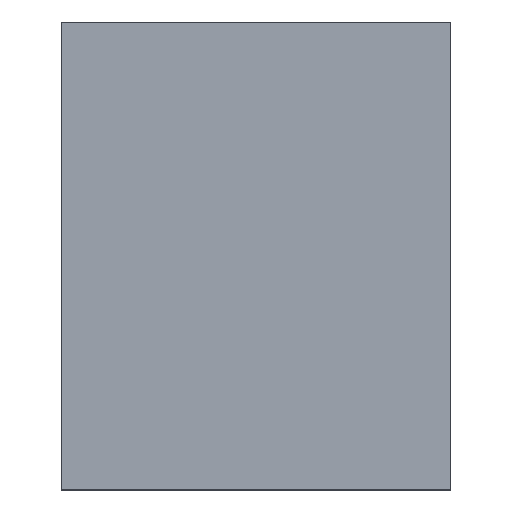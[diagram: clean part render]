
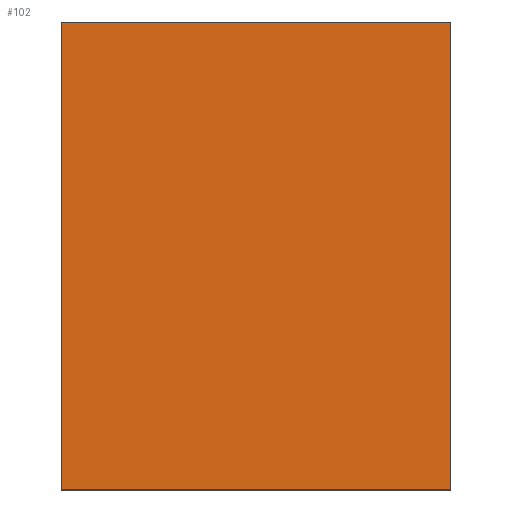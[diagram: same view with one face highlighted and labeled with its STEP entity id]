
A CAD part, top view. The second image highlights one B-rep face of the part: STEP entity #102.
In plain terms, the highlighted planar face has unit normal (0, 0, 1).
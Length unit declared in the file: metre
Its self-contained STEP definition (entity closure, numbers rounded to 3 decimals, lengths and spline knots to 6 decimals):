
#28=ORIENTED_EDGE('',*,*,#38,.F.);
#29=ORIENTED_EDGE('',*,*,#42,.T.);
#30=ORIENTED_EDGE('',*,*,#45,.T.);
#31=ORIENTED_EDGE('',*,*,#47,.F.);
#38=EDGE_CURVE('',#50,#51,#58,.T.);
#42=EDGE_CURVE('',#50,#53,#62,.T.);
#45=EDGE_CURVE('',#53,#55,#65,.T.);
#47=EDGE_CURVE('',#51,#55,#67,.T.);
#50=VERTEX_POINT('',#155);
#51=VERTEX_POINT('',#157);
#53=VERTEX_POINT('',#163);
#55=VERTEX_POINT('',#169);
#58=LINE('',#156,#70);
#62=LINE('',#164,#74);
#65=LINE('',#170,#77);
#67=LINE('',#173,#79);
#70=VECTOR('',#129,1.);
#74=VECTOR('',#135,1.);
#77=VECTOR('',#140,1.);
#79=VECTOR('',#144,1.);
#84=EDGE_LOOP('',(#28,#29,#30,#31));
#90=FACE_BOUND('',#84,.T.);
#96=PLANE('',#121);
#102=ADVANCED_FACE('',(#90),#96,.T.);
#121=AXIS2_PLACEMENT_3D('',#174,#145,#146);
#129=DIRECTION('',(-1.,0.,0.));
#135=DIRECTION('',(0.,1.,0.));
#140=DIRECTION('',(-1.,0.,0.));
#144=DIRECTION('',(0.,1.,0.));
#145=DIRECTION('',(0.,0.,1.));
#146=DIRECTION('',(1.,0.,0.));
#155=CARTESIAN_POINT('',(0.254,-0.3048,0.00635));
#156=CARTESIAN_POINT('',(0.,-0.3048,0.00635));
#157=CARTESIAN_POINT('',(-0.254,-0.3048,0.00635));
#163=CARTESIAN_POINT('',(0.254,0.3048,0.00635));
#164=CARTESIAN_POINT('',(0.254,0.,0.00635));
#169=CARTESIAN_POINT('',(-0.254,0.3048,0.00635));
#170=CARTESIAN_POINT('',(0.,0.3048,0.00635));
#173=CARTESIAN_POINT('',(-0.254,0.,0.00635));
#174=CARTESIAN_POINT('',(0.,0.,0.00635));
